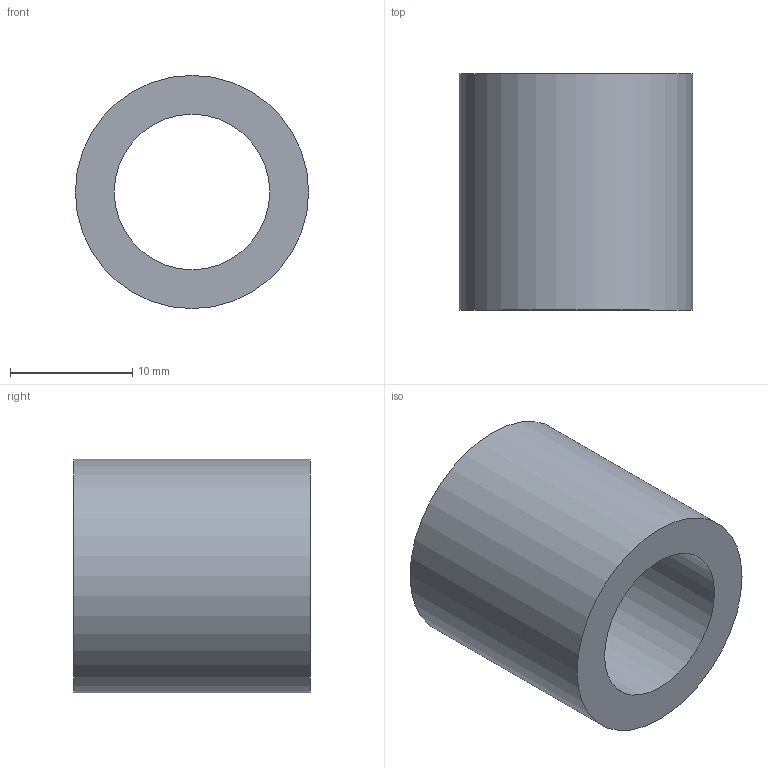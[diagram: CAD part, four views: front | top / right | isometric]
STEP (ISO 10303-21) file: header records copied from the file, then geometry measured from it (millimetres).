
FILE_DESCRIPTION(/* description */ (''),/* implementation_level */ '2;1');
FILE_NAME(/* name */ '6061-RND-075-125-IMPERIAL.step',/* time_stamp */ '2025-08-05T15:18:02-07:00',/* author */ (''),/* organization */ (''),/* preprocessor_version */ 'ST-DEVELOPER v20.1',/* originating_system */ 'Autodesk Translation Framework v14.10.0.0',/* authorisation */ '');
FILE_SCHEMA (('AUTOMOTIVE_DESIGN { 1 0 10303 214 3 1 1 }'));
Length unit declared in the file: inch
Products named in the file (1): (Unsaved)
Bounding box: 19.05 x 19.3 x 19.05 mm (x, y, z)
Volume: 3056.7 mm3; surface area: 2242.2 mm2
Topology: 1 solids, 1 shells, 4 faces, 6 edges, 4 vertices
Faces by surface type: cylinder 2, plane 2
Full cylindrical faces by diameter (mm): 12.7 x1, 19.05 x1
Entity records: 133 total; most frequent: DIRECTION 20, CARTESIAN_POINT 15, ORIENTED_EDGE 12, AXIS2_PLACEMENT_3D 9, EDGE_LOOP 6, EDGE_CURVE 6, FACE_OUTER_BOUND 4, CIRCLE 4
